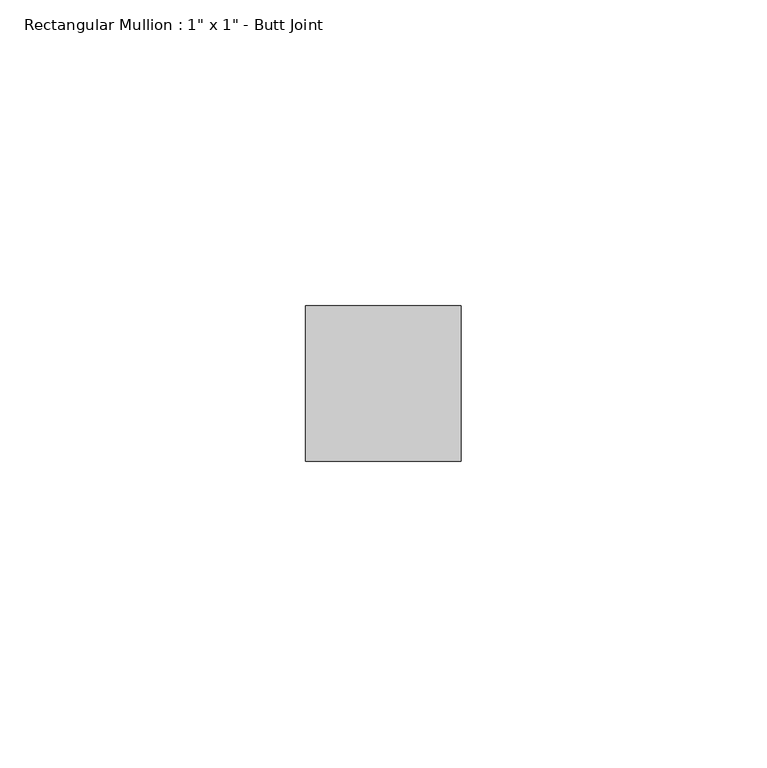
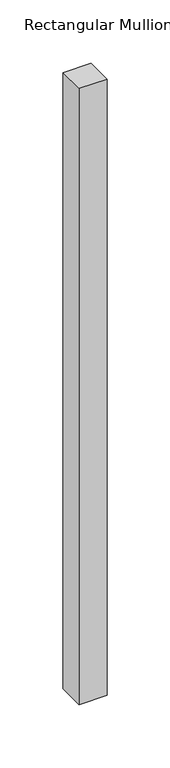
"""IFC4 building model written with IfcOpenShell, lengths in millimetres: member geometry."""

from ifc_helpers import new_model, si_unit, frame, origin, place, context, project, spatial, polyline, outline, extrude, source, transform, mapped, element, save


def member_bfca4c7d(model_context):
    return source(origin(), model_context, "Body", "SweptSolid", [
        extrude(outline(polyline([(12.7, 12.7), (12.7, -12.7), (-12.7, -12.7), (-12.7, 12.7), (12.7, 12.7)])), frame((0.0, 0.0, -594.36), z_axis=(0.0, 0.0, 1.0), x_axis=(1.0, 0.0, 0.0)), (0.0, 0.0, 1.0), 594.36),
    ])


if __name__ == "__main__":
    model = new_model("IFC4")
    model_context = context("Model", 3, world=origin())
    ifc_project = project(units=[si_unit("LENGTHUNIT", "METRE", prefix="MILLI")], contexts=[model_context])
    site = spatial("IfcSite", under=ifc_project)
    building = spatial("IfcBuilding", under=site)
    placement = place(None, origin())
    member_shape = member_bfca4c7d(model_context)
    element("IfcMember", 1, ObjectType="Rectangular Mullion : 1\" x 1\" - Butt Joint", at=placement, inside=building, context=model_context, shape_type="MappedRepresentation", body=[
        mapped(member_shape, transform((0.0, 0.0, 0.0), x_axis=(1.0, 0.0, 0.0), y_axis=(0.0, 1.0, 0.0), z_axis=(0.0, 0.0, 1.0))),
    ])
    save(model, "model.ifc")
